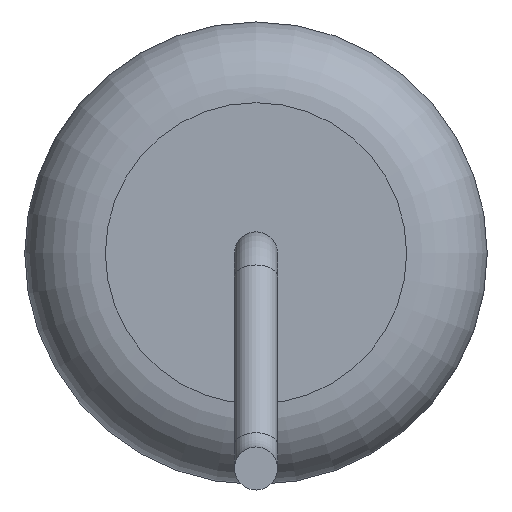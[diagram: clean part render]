
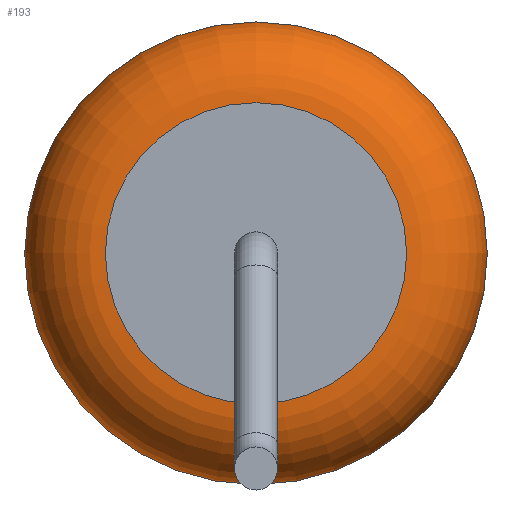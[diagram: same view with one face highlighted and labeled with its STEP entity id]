
A CAD part, left-side view. The second image highlights one B-rep face of the part: STEP entity #193.
In plain terms, the highlighted toroidal (fillet/blend) face has major radius 2.8 mm and minor radius 1.5 mm.
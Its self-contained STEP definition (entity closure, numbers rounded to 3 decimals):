
#193=ADVANCED_FACE('',(#398,#400),#402,.T.);
#398=FACE_OUTER_BOUND('',#399,.T.);
#399=EDGE_LOOP('',(#497));
#400=FACE_OUTER_BOUND('',#401,.T.);
#401=EDGE_LOOP('',(#498));
#402=TOROIDAL_SURFACE('',#403,2.8,1.5);
#403=AXIS2_PLACEMENT_3D('',#404,#405,#406);
#404=CARTESIAN_POINT('',(-12.,0.,0.));
#405=DIRECTION('',(-1.,0.,0.));
#406=DIRECTION('',(0.,0.,1.));
#497=ORIENTED_EDGE('',*,*,#526,.T.);
#498=ORIENTED_EDGE('',*,*,#527,.F.);
#526=EDGE_CURVE('',#562,#562,#563,.T.);
#527=EDGE_CURVE('',#564,#564,#565,.T.);
#562=VERTEX_POINT('',#648);
#563=CIRCLE('',#649,4.3);
#564=VERTEX_POINT('',#653);
#565=CIRCLE('',#654,2.8);
#648=CARTESIAN_POINT('',(-12.,0.,4.3));
#649=AXIS2_PLACEMENT_3D('',#650,#651,#652);
#650=CARTESIAN_POINT('',(-12.,0.,0.));
#651=DIRECTION('',(-1.,0.,0.));
#652=DIRECTION('',(0.,0.,1.));
#653=CARTESIAN_POINT('',(-13.5,0.,2.8));
#654=AXIS2_PLACEMENT_3D('',#655,#656,#657);
#655=CARTESIAN_POINT('',(-13.5,0.,0.));
#656=DIRECTION('',(-1.,0.,0.));
#657=DIRECTION('',(0.,0.,1.));
